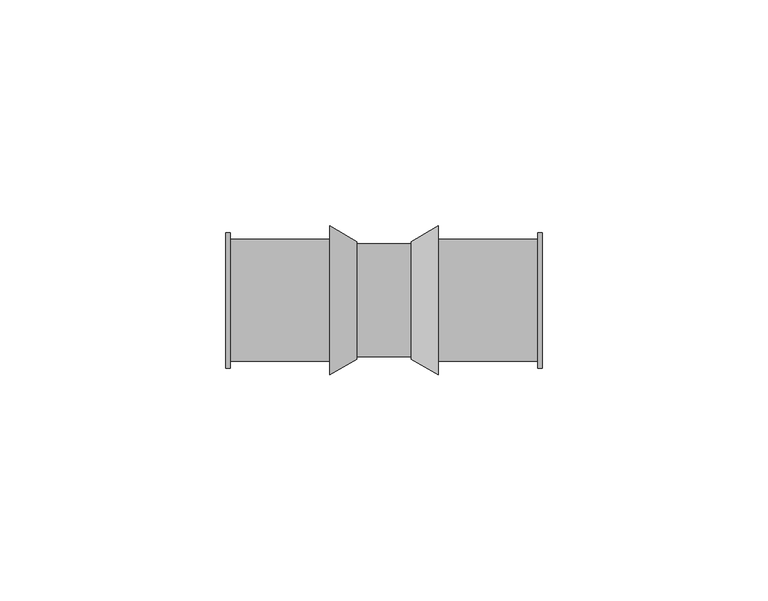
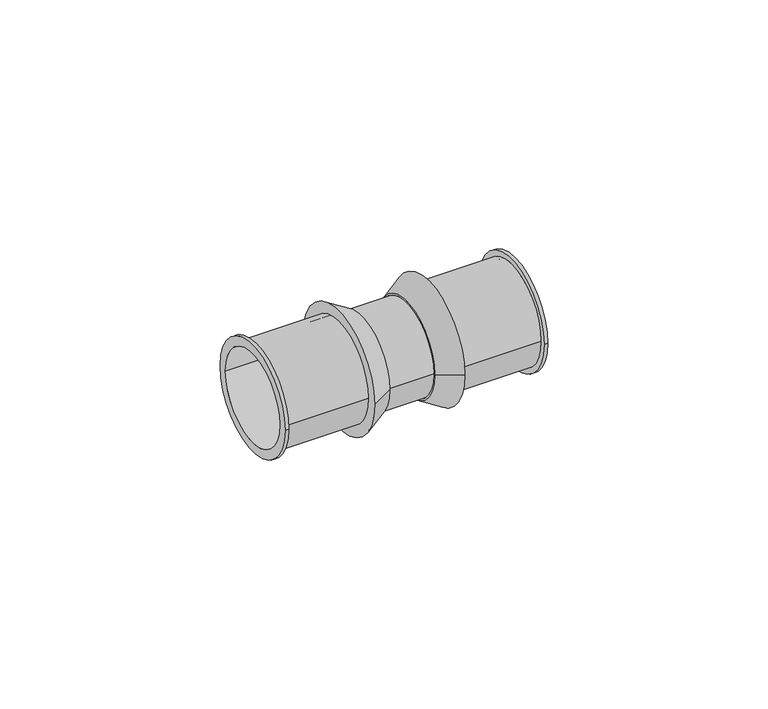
"""IFC4 building model written with IfcOpenShell, lengths in millimetres: pipe fitting geometry, SuperPipe_Coupling_SPressPlus : SuperPipe_Coupling_SPressPlus."""

from ifc_helpers import new_model, si_unit, point, frame, origin, origin_2d, place, context, project, spatial, polyline, circle_curve, trimmed, segment, composite_curve, outline, extrude, source, transform, mapped, element, save
from ifc_brep_helpers import plane_surface, cylinder_surface, revolved_surface, advanced_brep


def pipe_fitting_5d435a47(model_context):
    return source(origin(), model_context, "Body", "SolidModel", [
        advanced_brep(
        [(-35.0, -15.0, 0.0), (-35.0, 15.0, 0.0), (-35.0, -12.5, 0.0), (-35.0, 12.5, 0.0), (-12.0, -13.5, 0.0), (-12.0, 13.5, 0.0), (-12.0, -12.5, 0.0), (-12.0, 12.5, 0.0), (-34.0, -12.5, 0.0), (-34.0, 12.5, 0.0), (-34.0, 13.5, 0.0), (-34.0, -13.5, 0.0), (-34.0, -15.0, 0.0), (-34.0, 15.0, 0.0)],
        [
            (0, 1, circle_curve(frame((-35.0, 0.0, 0.0), z_axis=(-1.0, 0.0, 0.0), x_axis=(0.0, 1.0, 0.0)), 15.0)),
            (1, 0, circle_curve(frame((-35.0, 0.0, 0.0), z_axis=(-1.0, 0.0, 0.0), x_axis=(0.0, 1.0, 0.0)), 15.0)),
            (2, 3, circle_curve(frame((-35.0, 0.0, 0.0), z_axis=(1.0, 0.0, 0.0), x_axis=(0.0, 1.0, 0.0)), 12.5)),
            (3, 2, circle_curve(frame((-35.0, 0.0, 0.0), z_axis=(1.0, 0.0, 0.0), x_axis=(0.0, 1.0, 0.0)), 12.5)),
            (4, 5, circle_curve(frame((-12.0, 0.0, 0.0), z_axis=(1.0, 0.0, 0.0), x_axis=(0.0, 1.0, 0.0)), 13.5)),
            (5, 4, circle_curve(frame((-12.0, 0.0, 0.0), z_axis=(1.0, 0.0, 0.0), x_axis=(0.0, 1.0, 0.0)), 13.5)),
            (6, 7, circle_curve(frame((-12.0, 0.0, 0.0), z_axis=(-1.0, 0.0, 0.0), x_axis=(0.0, 1.0, 0.0)), 12.5)),
            (7, 6, circle_curve(frame((-12.0, 0.0, 0.0), z_axis=(-1.0, 0.0, 0.0), x_axis=(0.0, 1.0, 0.0)), 12.5)),
            (2, 8),
            (8, 6),
            (7, 9),
            (9, 3),
            (5, 10),
            (10, 11, circle_curve(frame((-34.0, 0.0, 0.0), z_axis=(1.0, 0.0, 0.0), x_axis=(0.0, 1.0, 0.0)), 13.5)),
            (11, 4),
            (11, 10, circle_curve(frame((-34.0, 0.0, 0.0), z_axis=(1.0, 0.0, 0.0), x_axis=(0.0, 1.0, 0.0)), 13.5)),
            (12, 13, circle_curve(frame((-34.0, 0.0, 0.0), z_axis=(1.0, 0.0, 0.0), x_axis=(0.0, 1.0, 0.0)), 15.0)),
            (13, 12, circle_curve(frame((-34.0, 0.0, 0.0), z_axis=(1.0, 0.0, 0.0), x_axis=(0.0, 1.0, 0.0)), 15.0)),
            (0, 12),
            (13, 1),
        ],
        [
            plane_surface(frame((-35.0, 0.0, 0.0), z_axis=(-1.0, 0.0, 0.0), x_axis=(0.0, 0.0, 1.0))),
            plane_surface(frame((-12.0, 0.0, 0.0), z_axis=(1.0, 0.0, 0.0), x_axis=(0.0, 0.0, 1.0))),
            revolved_surface(polyline([(-12.0, 12.5, 0.0), (-35.0, 12.5, 0.0)]), (-35.0, 0.0, 0.0), (1.0, 0.0, 0.0)),
            cylinder_surface(frame((-35.0, 0.0, 0.0), z_axis=(-1.0, 0.0, 0.0), x_axis=(0.0, 1.0, 0.0)), 13.5),
            plane_surface(frame((-34.0, 0.0, 0.0), z_axis=(1.0, 0.0, 0.0), x_axis=(0.0, 0.0, 1.0))),
            cylinder_surface(frame((-35.0, 0.0, 0.0), z_axis=(-1.0, 0.0, 0.0), x_axis=(0.0, 1.0, 0.0)), 15.0),
        ],
        [
            (0, [[1, 2], [3, 4]]),
            (1, [[5, 6], [7, 8]]),
            (2, [[-3, 9, 10, -8, 11, 12]]),
            (2, [[-4, -12, -11, -7, -10, -9]]),
            (3, [[-6, 13, 14, 15]]),
            (3, [[-5, -15, 16, -13]]),
            (4, [[17, 18], [-14, -16]]),
            (5, [[-1, 19, -18, 20]]),
            (5, [[-2, -20, -17, -19]]),
        ],
    ),
        advanced_brep(
        [(12.0, -13.5, 0.0), (12.0, 13.5, 0.0), (12.0, -12.5, 0.0), (12.0, 12.5, 0.0), (35.0, -15.0, 0.0), (35.0, 15.0, 0.0), (35.0, -12.5, 0.0), (35.0, 12.5, 0.0), (34.0, -13.5, 0.0), (34.0, 13.5, 0.0), (34.0, -12.5, 0.0), (34.0, 12.5, 0.0), (34.0, -15.0, 0.0), (34.0, 15.0, 0.0)],
        [
            (0, 1, circle_curve(frame((12.0, 0.0, 0.0), z_axis=(-1.0, 0.0, 0.0), x_axis=(0.0, 1.0, 0.0)), 13.5)),
            (1, 0, circle_curve(frame((12.0, 0.0, 0.0), z_axis=(-1.0, 0.0, 0.0), x_axis=(0.0, 1.0, 0.0)), 13.5)),
            (2, 3, circle_curve(frame((12.0, 0.0, 0.0), z_axis=(1.0, 0.0, 0.0), x_axis=(0.0, 1.0, 0.0)), 12.5)),
            (3, 2, circle_curve(frame((12.0, 0.0, 0.0), z_axis=(1.0, 0.0, 0.0), x_axis=(0.0, 1.0, 0.0)), 12.5)),
            (4, 5, circle_curve(frame((35.0, 0.0, 0.0), z_axis=(1.0, 0.0, 0.0), x_axis=(0.0, 1.0, 0.0)), 15.0)),
            (5, 4, circle_curve(frame((35.0, 0.0, 0.0), z_axis=(1.0, 0.0, 0.0), x_axis=(0.0, 1.0, 0.0)), 15.0)),
            (6, 7, circle_curve(frame((35.0, 0.0, 0.0), z_axis=(-1.0, 0.0, 0.0), x_axis=(0.0, 1.0, 0.0)), 12.5)),
            (7, 6, circle_curve(frame((35.0, 0.0, 0.0), z_axis=(-1.0, 0.0, 0.0), x_axis=(0.0, 1.0, 0.0)), 12.5)),
            (0, 8),
            (8, 9, circle_curve(frame((34.0, 0.0, 0.0), z_axis=(-1.0, 0.0, 0.0), x_axis=(0.0, 1.0, 0.0)), 13.5)),
            (9, 1),
            (9, 8, circle_curve(frame((34.0, 0.0, 0.0), z_axis=(-1.0, 0.0, 0.0), x_axis=(0.0, 1.0, 0.0)), 13.5)),
            (2, 10),
            (10, 6),
            (7, 11),
            (11, 3),
            (12, 13, circle_curve(frame((34.0, 0.0, 0.0), z_axis=(-1.0, 0.0, 0.0), x_axis=(0.0, 1.0, 0.0)), 15.0)),
            (13, 12, circle_curve(frame((34.0, 0.0, 0.0), z_axis=(-1.0, 0.0, 0.0), x_axis=(0.0, 1.0, 0.0)), 15.0)),
            (12, 4),
            (5, 13),
        ],
        [
            plane_surface(frame((12.0, 0.0, 0.0), z_axis=(-1.0, 0.0, 0.0), x_axis=(0.0, 0.0, 1.0))),
            plane_surface(frame((35.0, 0.0, 0.0), z_axis=(1.0, 0.0, 0.0), x_axis=(0.0, 0.0, 1.0))),
            cylinder_surface(frame((12.0, 0.0, 0.0), z_axis=(-1.0, 0.0, 0.0), x_axis=(0.0, 1.0, 0.0)), 13.5),
            revolved_surface(polyline([(35.0, 12.5, 0.0), (12.0, 12.5, 0.0)]), (12.0, 0.0, 0.0), (1.0, 0.0, 0.0)),
            plane_surface(frame((34.0, 0.0, 0.0), z_axis=(-1.0, 0.0, 0.0), x_axis=(0.0, 0.0, 1.0))),
            cylinder_surface(frame((34.0, 0.0, 0.0), z_axis=(-1.0, 0.0, 0.0), x_axis=(0.0, 1.0, 0.0)), 15.0),
        ],
        [
            (0, [[1, 2], [3, 4]]),
            (1, [[5, 6], [7, 8]]),
            (2, [[-1, 9, 10, 11]]),
            (2, [[-2, -11, 12, -9]]),
            (3, [[-3, 13, 14, -8, 15, 16]]),
            (3, [[-4, -16, -15, -7, -14, -13]]),
            (4, [[17, 18], [-10, -12]]),
            (5, [[-17, 19, -6, 20]]),
            (5, [[-18, -20, -5, -19]]),
        ],
    ),
        advanced_brep(
        [(12.0, -16.5, 0.0), (12.0, 16.5, 0.0), (12.0, 12.5, 0.0), (12.0, -12.5, 0.0), (6.0, -13.0, 0.0), (6.0, 13.0, 0.0), (6.0, -12.5, 0.0), (6.0, 12.5, 0.0)],
        [
            (0, 1, circle_curve(frame((12.0, 0.0, 0.0), z_axis=(1.0, 0.0, 0.0), x_axis=(0.0, -1.0, 0.0)), 16.5)),
            (1, 0, circle_curve(frame((12.0, 0.0, 0.0), z_axis=(1.0, 0.0, 0.0), x_axis=(0.0, 1.0, 0.0)), 16.5)),
            (2, 3, circle_curve(frame((12.0, 0.0, 0.0), z_axis=(-1.0, 0.0, 0.0), x_axis=(0.0, 1.0, 0.0)), 12.5)),
            (3, 2, circle_curve(frame((12.0, 0.0, 0.0), z_axis=(-1.0, 0.0, 0.0), x_axis=(0.0, 1.0, 0.0)), 12.5)),
            (4, 5, circle_curve(frame((6.0, 0.0, 0.0), z_axis=(-1.0, 0.0, 0.0), x_axis=(0.0, 1.0, 0.0)), 13.0)),
            (5, 4, circle_curve(frame((6.0, 0.0, 0.0), z_axis=(-1.0, 0.0, 0.0), x_axis=(0.0, -1.0, 0.0)), 13.0)),
            (6, 7, circle_curve(frame((6.0, 0.0, 0.0), z_axis=(1.0, 0.0, 0.0), x_axis=(0.0, 1.0, 0.0)), 12.5)),
            (7, 6, circle_curve(frame((6.0, 0.0, 0.0), z_axis=(1.0, 0.0, 0.0), x_axis=(0.0, 1.0, 0.0)), 12.5)),
            (0, 4),
            (5, 1),
            (2, 7),
            (6, 3),
        ],
        [
            plane_surface(frame((12.0, 0.0, 0.0), z_axis=(1.0, 0.0, 0.0), x_axis=(0.0, 0.0, -1.0))),
            plane_surface(frame((6.0, 0.0, 0.0), z_axis=(-1.0, 0.0, 0.0), x_axis=(0.0, 0.0, -1.0))),
            revolved_surface(polyline([(6.0, 13.000000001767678, 0.0), (12.0, 16.5, 0.0)]), (-16.2857143, 0.0, 0.0), (1.0, 0.0, 0.0)),
            revolved_surface(polyline([(6.0, -13.000000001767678, 0.0), (12.0, -16.5, 0.0)]), (-16.2857143, 0.0, 0.0), (1.0, 0.0, 0.0)),
            revolved_surface(polyline([(12.0, 12.5, 0.0), (6.0, 12.5, 0.0)]), (6.0, 0.0, 0.0), (1.0, 0.0, 0.0)),
        ],
        [
            (0, [[1, 2], [3, 4]]),
            (1, [[5, 6], [7, 8]]),
            (2, [[-1, 9, -6, 10]]),
            (3, [[-2, -10, -5, -9]]),
            (4, [[11, -7, 12, -3]]),
            (4, [[-11, -4, -12, -8]]),
        ],
    ),
        advanced_brep(
        [(-6.0, -13.0, 0.0), (-6.0, 13.0, 0.0), (-6.0, 12.5, 0.0), (-6.0, -12.5, 0.0), (-12.0, -16.5, 0.0), (-12.0, 16.5, 0.0), (-12.0, -12.5, 0.0), (-12.0, 12.5, 0.0)],
        [
            (0, 1, circle_curve(frame((-6.0, 0.0, 0.0), z_axis=(1.0, 0.0, 0.0), x_axis=(0.0, -1.0, 0.0)), 13.0)),
            (1, 0, circle_curve(frame((-6.0, 0.0, 0.0), z_axis=(1.0, 0.0, 0.0), x_axis=(0.0, 1.0, 0.0)), 13.0)),
            (2, 3, circle_curve(frame((-6.0, 0.0, 0.0), z_axis=(-1.0, 0.0, 0.0), x_axis=(0.0, 1.0, 0.0)), 12.5)),
            (3, 2, circle_curve(frame((-6.0, 0.0, 0.0), z_axis=(-1.0, 0.0, 0.0), x_axis=(0.0, 1.0, 0.0)), 12.5)),
            (4, 5, circle_curve(frame((-12.0, 0.0, 0.0), z_axis=(-1.0, 0.0, 0.0), x_axis=(0.0, 1.0, 0.0)), 16.5)),
            (5, 4, circle_curve(frame((-12.0, 0.0, 0.0), z_axis=(-1.0, 0.0, 0.0), x_axis=(0.0, -1.0, 0.0)), 16.5)),
            (6, 7, circle_curve(frame((-12.0, 0.0, 0.0), z_axis=(1.0, 0.0, 0.0), x_axis=(0.0, 1.0, 0.0)), 12.5)),
            (7, 6, circle_curve(frame((-12.0, 0.0, 0.0), z_axis=(1.0, 0.0, 0.0), x_axis=(0.0, 1.0, 0.0)), 12.5)),
            (0, 4),
            (5, 1),
            (2, 7),
            (6, 3),
        ],
        [
            plane_surface(frame((-6.0, 0.0, 0.0), z_axis=(1.0, 0.0, 0.0), x_axis=(0.0, 0.0, -1.0))),
            plane_surface(frame((-12.0, 0.0, 0.0), z_axis=(-1.0, 0.0, 0.0), x_axis=(0.0, 0.0, -1.0))),
            revolved_surface(polyline([(-6.0, -13.000000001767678, 0.0), (-12.0, -16.5, 0.0)]), (16.2857143, 0.0, 0.0), (-1.0, 0.0, 0.0)),
            revolved_surface(polyline([(-6.0, 13.000000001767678, 0.0), (-12.0, 16.5, 0.0)]), (16.2857143, 0.0, 0.0), (-1.0, 0.0, 0.0)),
            revolved_surface(polyline([(-6.0, 12.5, 0.0), (-12.0, 12.5, 0.0)]), (-12.0, 0.0, 0.0), (1.0, 0.0, 0.0)),
        ],
        [
            (0, [[1, 2], [3, 4]]),
            (1, [[5, 6], [7, 8]]),
            (2, [[-1, 9, -6, 10]]),
            (3, [[-2, -10, -5, -9]]),
            (4, [[11, -7, 12, -3]]),
            (4, [[-11, -4, -12, -8]]),
        ],
    ),
        extrude(outline(composite_curve([segment(trimmed(circle_curve(origin_2d(), 12.5), [point((-12.5, 0.0))], [point((12.5, 0.0))], False, "CARTESIAN"), True, "CONTINUOUS"), segment(trimmed(circle_curve(origin_2d(), 12.5), [point((12.5, 0.0))], [point((-12.5, 0.0))], False, "CARTESIAN"), True, "CONTINUOUS")], self_intersect=False)), frame((-6.0, 0.0, 0.0), z_axis=(1.0, 0.0, 0.0), x_axis=(0.0, 1.0, 0.0)), (0.0, 0.0, 1.0), 12.0),
    ])


if __name__ == "__main__":
    model = new_model("IFC4")
    model_context = context("Model", 3, world=origin())
    ifc_project = project(units=[si_unit("LENGTHUNIT", "METRE", prefix="MILLI")], contexts=[model_context])
    site = spatial("IfcSite", under=ifc_project)
    building = spatial("IfcBuilding", under=site)
    placement = place(None, origin())
    pipe_fitting_shape = pipe_fitting_5d435a47(model_context)
    element("IfcPipeFitting", 1, ObjectType="SuperPipe_Coupling_SPressPlus : SuperPipe_Coupling_SPressPlus", at=placement, inside=building, context=model_context, shape_type="MappedRepresentation", body=[
        mapped(pipe_fitting_shape, transform((0.0, 0.0, 0.0), x_axis=(1.0, 0.0, 0.0), y_axis=(0.0, 1.0, 0.0), z_axis=(0.0, 0.0, 1.0))),
    ])
    save(model, "model.ifc")
